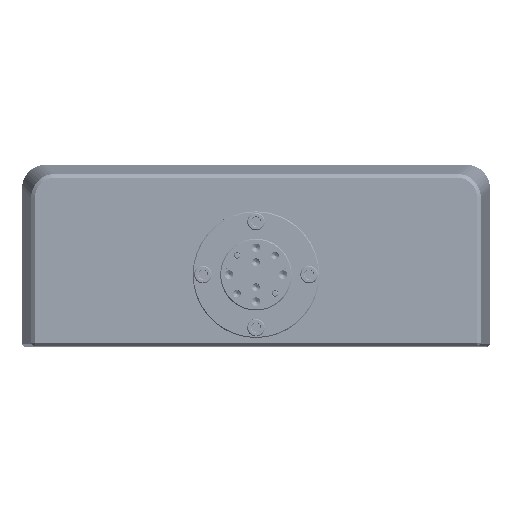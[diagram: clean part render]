
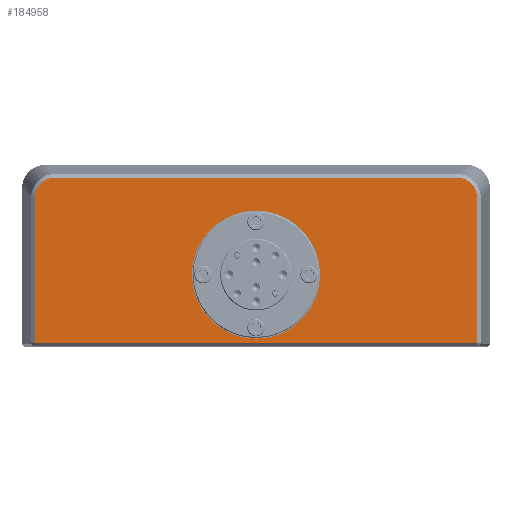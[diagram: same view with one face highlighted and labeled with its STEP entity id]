
A CAD part, top view. The second image highlights one B-rep face of the part: STEP entity #184958.
In plain terms, the highlighted planar face has unit normal (0, 0, 1).
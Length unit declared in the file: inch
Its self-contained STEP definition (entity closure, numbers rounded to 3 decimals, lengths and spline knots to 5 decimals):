
#1846 = EDGE_CURVE ( 'NONE', #106970, #53271, #175616, .T. ) ;
#4272 = CARTESIAN_POINT ( 'NONE',  ( -2.56535, 1.849, 9.26704 ) ) ;
#5734 = CARTESIAN_POINT ( 'NONE',  ( 1.77015, 1.80729, 9.26704 ) ) ;
#5849 = CARTESIAN_POINT ( 'NONE',  ( -2.73256, 1.76878, 9.26704 ) ) ;
#6907 = CARTESIAN_POINT ( 'NONE',  ( 0.20805, 0.83393, 9.26704 ) ) ;
#17190 = DIRECTION ( 'NONE',  ( -1., 0., 0. ) ) ;
#17746 = AXIS2_PLACEMENT_3D ( 'NONE', #161472, #209210, #17190 ) ;
#20642 = LINE ( 'NONE', #124175, #25052 ) ;
#20796 = CARTESIAN_POINT ( 'NONE',  ( -2.56535, 1.849, 9.26704 ) ) ;
#21739 = CARTESIAN_POINT ( 'NONE',  ( 1.64145, 1.849, 9.26704 ) ) ;
#22047 = EDGE_CURVE ( 'NONE', #53271, #56124, #90031, .T. ) ;
#25052 = VECTOR ( 'NONE', #140056, 39.37008 ) ;
#28821 = VECTOR ( 'NONE', #52941, 39.37008 ) ;
#34457 = CARTESIAN_POINT ( 'NONE',  ( 1.80865, 1.76878, 9.26704 ) ) ;
#35966 = CARTESIAN_POINT ( 'NONE',  ( -2.77428, 1.03393, 9.26704 ) ) ;
#37039 = LINE ( 'NONE', #35966, #28821 ) ;
#39373 = VERTEX_POINT ( 'NONE', #162417 ) ;
#39500 = EDGE_CURVE ( 'NONE', #39373, #87456, #196397, .T. ) ;
#39586 = VERTEX_POINT ( 'NONE', #101969 ) ;
#41036 = DIRECTION ( 'NONE',  ( 0., 0., 1. ) ) ;
#41073 = EDGE_CURVE ( 'NONE', #182792, #39373, #20642, .T. ) ;
#47441 = ORIENTED_EDGE ( 'NONE', *, *, #41073, .T. ) ;
#49273 = DIRECTION ( 'NONE',  ( -1., 0., 0. ) ) ;
#50346 = CARTESIAN_POINT ( 'NONE',  ( 1.85037, 1.66757, 9.26704 ) ) ;
#50994 = DIRECTION ( 'NONE',  ( 0., 1., 0. ) ) ;
#52941 = DIRECTION ( 'NONE',  ( 0., -1., 0. ) ) ;
#53271 = VERTEX_POINT ( 'NONE', #4272 ) ;
#56124 = VERTEX_POINT ( 'NONE', #99083 ) ;
#60434 = DIRECTION ( 'NONE',  ( 0., 0., 1. ) ) ;
#61683 = EDGE_CURVE ( 'NONE', #156062, #39586, #203436, .T. ) ;
#61940 = VECTOR ( 'NONE', #50994, 39.37008 ) ;
#68493 = CARTESIAN_POINT ( 'NONE',  ( -2.67082, 1.82277, 9.26704 ) ) ;
#75160 = ORIENTED_EDGE ( 'NONE', *, *, #109091, .F. ) ;
#80824 = FACE_OUTER_BOUND ( 'NONE', #130444, .T. ) ;
#82994 = CARTESIAN_POINT ( 'NONE',  ( 1.64145, 1.849, 9.26704 ) ) ;
#83217 = CARTESIAN_POINT ( 'NONE',  ( 1.669, 1.84901, 9.26704 ) ) ;
#84411 = CARTESIAN_POINT ( 'NONE',  ( -2.69405, 1.80728, 9.26704 ) ) ;
#87456 = VERTEX_POINT ( 'NONE', #118499 ) ;
#90031 = B_SPLINE_CURVE_WITH_KNOTS ( 'NONE', 3,
 ( #20796, #99335, #134218, #68493, #84411, #5849, #168199, #167183, #150170, #165043 ),
 .UNSPECIFIED., .F., .F.,
 ( 4, 2, 2, 2, 4 ),
 ( 0., 0.25, 0.5, 0.75, 1. ),
 .UNSPECIFIED. ) ;
#99083 = CARTESIAN_POINT ( 'NONE',  ( -2.77428, 1.64008, 9.26704 ) ) ;
#99335 = CARTESIAN_POINT ( 'NONE',  ( -2.59284, 1.84901, 9.26704 ) ) ;
#99458 = EDGE_LOOP ( 'NONE', ( #185868, #75160 ) ) ;
#100250 = CARTESIAN_POINT ( 'NONE',  ( 1.74691, 1.82277, 9.26704 ) ) ;
#101327 = CARTESIAN_POINT ( 'NONE',  ( 1.69644, 1.84357, 9.26704 ) ) ;
#101969 = CARTESIAN_POINT ( 'NONE',  ( -1.13195, 0.83393, 9.26704 ) ) ;
#104877 = ORIENTED_EDGE ( 'NONE', *, *, #39500, .T. ) ;
#105351 = AXIS2_PLACEMENT_3D ( 'NONE', #122068, #60434, #124133 ) ;
#106970 = VERTEX_POINT ( 'NONE', #82994 ) ;
#108272 = ORIENTED_EDGE ( 'NONE', *, *, #120685, .T. ) ;
#109091 = EDGE_CURVE ( 'NONE', #39586, #156062, #148561, .T. ) ;
#112744 = FACE_BOUND ( 'NONE', #99458, .T. ) ;
#115105 = CARTESIAN_POINT ( 'NONE',  ( 1.84494, 1.69507, 9.26704 ) ) ;
#116909 = ORIENTED_EDGE ( 'NONE', *, *, #174572, .T. ) ;
#118499 = CARTESIAN_POINT ( 'NONE',  ( 1.85037, 1.64008, 9.26704 ) ) ;
#120685 = EDGE_CURVE ( 'NONE', #56124, #182792, #37039, .T. ) ;
#122068 = CARTESIAN_POINT ( 'NONE',  ( -0.46195, 0.83393, 9.26704 ) ) ;
#123980 = ORIENTED_EDGE ( 'NONE', *, *, #22047, .T. ) ;
#124133 = DIRECTION ( 'NONE',  ( 1., 0., 0. ) ) ;
#124175 = CARTESIAN_POINT ( 'NONE',  ( -0.46195, 0.11393, 9.26704 ) ) ;
#125478 = PLANE ( 'NONE',  #17746 ) ;
#128238 = AXIS2_PLACEMENT_3D ( 'NONE', #188510, #41036, #184340 ) ;
#130444 = EDGE_LOOP ( 'NONE', ( #123980, #108272, #47441, #104877, #116909, #149265 ) ) ;
#133060 = CARTESIAN_POINT ( 'NONE',  ( 1.85037, 1.64008, 9.26704 ) ) ;
#134218 = CARTESIAN_POINT ( 'NONE',  ( -2.62034, 1.84357, 9.26704 ) ) ;
#140056 = DIRECTION ( 'NONE',  ( 1., 0., 0. ) ) ;
#148561 = CIRCLE ( 'NONE', #128238, 0.67 ) ;
#149265 = ORIENTED_EDGE ( 'NONE', *, *, #1846, .T. ) ;
#149673 = VECTOR ( 'NONE', #49273, 39.37008 ) ;
#150170 = CARTESIAN_POINT ( 'NONE',  ( -2.77428, 1.66763, 9.26704 ) ) ;
#156062 = VERTEX_POINT ( 'NONE', #6907 ) ;
#156592 = B_SPLINE_CURVE_WITH_KNOTS ( 'NONE', 3,
 ( #133060, #50346, #115105, #179873, #34457, #5734, #100250, #101327, #83217, #21739 ),
 .UNSPECIFIED., .F., .F.,
 ( 4, 2, 2, 2, 4 ),
 ( 0., 0.25, 0.5, 0.75, 1. ),
 .UNSPECIFIED. ) ;
#161472 = CARTESIAN_POINT ( 'NONE',  ( -0.46195, 1.03393, 9.26704 ) ) ;
#162417 = CARTESIAN_POINT ( 'NONE',  ( 1.85037, 0.11393, 9.26704 ) ) ;
#165043 = CARTESIAN_POINT ( 'NONE',  ( -2.77428, 1.64008, 9.26704 ) ) ;
#167183 = CARTESIAN_POINT ( 'NONE',  ( -2.76885, 1.69507, 9.26704 ) ) ;
#168199 = CARTESIAN_POINT ( 'NONE',  ( -2.74804, 1.74554, 9.26704 ) ) ;
#174572 = EDGE_CURVE ( 'NONE', #87456, #106970, #156592, .T. ) ;
#175616 = LINE ( 'NONE', #195747, #149673 ) ;
#179873 = CARTESIAN_POINT ( 'NONE',  ( 1.82414, 1.74555, 9.26704 ) ) ;
#182792 = VERTEX_POINT ( 'NONE', #183201 ) ;
#183201 = CARTESIAN_POINT ( 'NONE',  ( -2.77428, 0.11393, 9.26704 ) ) ;
#184340 = DIRECTION ( 'NONE',  ( 1., 0., 0. ) ) ;
#184958 = ADVANCED_FACE ( 'NONE', ( #80824, #112744 ), #125478, .F. ) ;
#185868 = ORIENTED_EDGE ( 'NONE', *, *, #61683, .F. ) ;
#188510 = CARTESIAN_POINT ( 'NONE',  ( -0.46195, 0.83393, 9.26704 ) ) ;
#195361 = CARTESIAN_POINT ( 'NONE',  ( 1.85037, 1.03393, 9.26704 ) ) ;
#195747 = CARTESIAN_POINT ( 'NONE',  ( -0.46195, 1.849, 9.26704 ) ) ;
#196397 = LINE ( 'NONE', #195361, #61940 ) ;
#203436 = CIRCLE ( 'NONE', #105351, 0.67 ) ;
#209210 = DIRECTION ( 'NONE',  ( 0., 0., -1. ) ) ;
